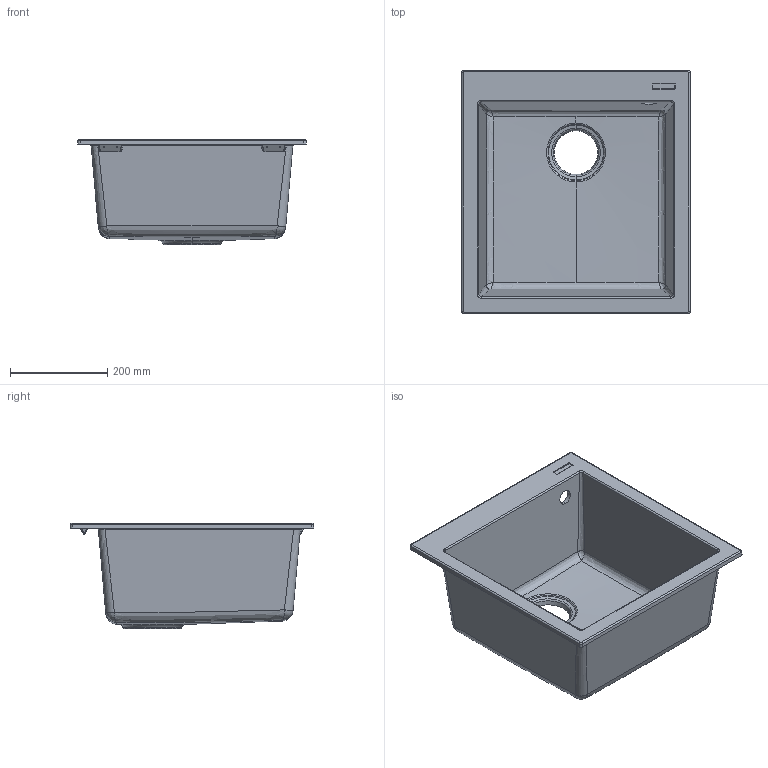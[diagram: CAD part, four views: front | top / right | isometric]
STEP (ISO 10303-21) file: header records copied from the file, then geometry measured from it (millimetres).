
FILE_DESCRIPTION(/* description */ (''),/* implementation_level */ '2;1');
FILE_NAME(/* name */ 'VZ45N.stp',/* time_stamp */ '2021-05-08T09:50:17+02:00',/* author */ (''),/* organization */ (''),/* preprocessor_version */ 'ST-DEVELOPER v16',/* originating_system */ 'SIEMENS PLM Software NX 11.0',/* authorisation */ '');
FILE_SCHEMA (('AUTOMOTIVE_DESIGN { 1 0 10303 214 3 1 1 1 }'));
Length unit declared in the file: millimetre
Products named in the file (1): mart2B9CF3DDs012
Bounding box: 470 x 500 x 216.7 mm (x, y, z)
Volume: 3996750.8 mm3; surface area: 1008895.2 mm2
Topology: 1 solids, 1 shells, 272 faces, 630 edges, 364 vertices
Faces by surface type: cylinder 102, bspline 92, plane 50, cone 10, torus 10, sphere 8
Entity records: 12855 total; most frequent: CARTESIAN_POINT 7522, ORIENTED_EDGE 1220, DIRECTION 967, EDGE_CURVE 610, AXIS2_PLACEMENT_3D 392, VERTEX_POINT 360, EDGE_LOOP 296, ADVANCED_FACE 272
